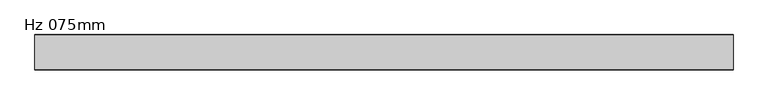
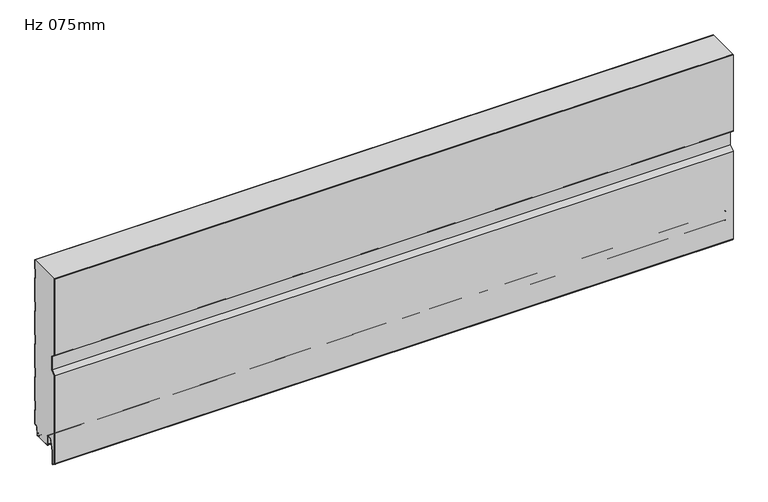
"""IFC4 building model written with IfcOpenShell, lengths in millimetres: plate geometry, KIP-MEX-KW-R19-CP-Hz-KW3_SL : Hz 075mm."""

from ifc_helpers import new_model, si_unit, point, frame, frame_2d, origin, place, context, project, spatial, polyline, circle_curve, trimmed, segment, composite_curve, outline, extrude, source, transform, mapped, element, save


def hz_075mm_f9465556(model_context):
    return source(origin(), model_context, "Body", "SweptSolid", [
        extrude(outline(composite_curve([segment(polyline([(-14.168539, 7.9539868), (-13.6621069, 2.1654409)]), True, "CONTINUOUS"), segment(trimmed(circle_curve(frame_2d((-11.1716202, 2.3833303)), 2.5), [point((-13.6621069, 2.1654409))], [point((-11.9264293, 0.0))], True, "CARTESIAN"), True, "CONTINUOUS"), segment(polyline([(-11.9264293, 0.0), (-43.737817, 0.0)]), True, "CONTINUOUS"), segment(trimmed(circle_curve(frame_2d((-43.737817, 2.4986532)), 2.4986532), [point((-43.737817, 0.0))], [point((-41.2391638, 2.4986532))], True, "CARTESIAN"), True, "CONTINUOUS"), segment(polyline([(-41.2391638, 2.4986532), (-41.2391638, 6.9975309), (-42.2393619, 6.9975309), (-42.2393619, 2.4989009)]), True, "CONTINUOUS"), segment(trimmed(circle_curve(frame_2d((-43.737718, 2.4989009)), 1.4983561), [point((-42.2393619, 2.4989009))], [point((-43.737718, 1.0005448))], False, "CARTESIAN"), True, "CONTINUOUS"), segment(polyline([(-43.737718, 1.0005448), (-45.2871287, 1.0005448)]), True, "CONTINUOUS"), segment(trimmed(circle_curve(frame_2d((-45.2871287, 2.4946541)), 1.4941093), [point((-45.2871287, 1.0005448))], [point((-46.781238, 2.4946541))], False, "CARTESIAN"), True, "CONTINUOUS"), segment(polyline([(-46.781238, 2.4946541), (-46.781238, 21.0181667)]), True, "CONTINUOUS"), segment(trimmed(circle_curve(frame_2d((-49.8021238, 21.0181667)), 3.0208858), [point((-46.781238, 21.0181667))], [point((-49.8021238, 24.0390526))], True, "CARTESIAN"), True, "CONTINUOUS"), segment(polyline([(-49.8021238, 24.0390526), (-57.2693804, 24.0390526)]), True, "CONTINUOUS"), segment(trimmed(circle_curve(frame_2d((-57.2693804, 21.0499553)), 2.9890972), [point((-57.2693804, 24.0390526))], [point((-60.1423641, 21.8749809))], True, "CARTESIAN"), True, "CONTINUOUS"), segment(polyline([(-60.1423641, 21.8749809), (-67.2405983, -2.8431766), (-67.2405983, -31.2013392), (-73.9952121, -25.9234803), (-73.9952121, 177.1070348), (-63.9944609, 185.1076357), (-63.9944609, 216.0688854), (-73.9944609, 224.0688854), (-73.9944609, 400.0520896), (-0.9944609, 400.0520896), (-0.9944609, 379.6094183), (-2.1939601, 378.522894), (-2.1939601, 358.5909157), (-0.9944609, 357.5058172), (-0.9944609, 303.4565335), (-2.1939601, 302.3700093), (-2.1939601, 282.4380309), (-0.9944609, 281.3529324), (-0.9944609, 227.3036488), (-2.1939601, 226.2171245), (-2.1939601, 206.2851462), (-0.9944609, 205.2000477), (-0.9944609, 151.150764), (-2.1939601, 150.0642397), (-2.1939601, 130.1322614), (-0.9944609, 129.0471629), (-0.9944609, 74.9978793), (-2.1939601, 73.911355), (-2.1939601, 53.9793766), (-0.9952121, 52.8942781), (-0.9952121, 21.2882606), (-4.4952121, 21.2882606)]), True, "CONTINUOUS"), segment(trimmed(circle_curve(frame_2d((-4.4952121, 18.2882606)), 3.0), [point((-4.4952121, 21.2882606))], [point((-7.4839175, 18.5483373))], True, "CARTESIAN"), True, "CONTINUOUS"), segment(polyline([(-7.4839175, 18.5483373), (-8.9019103, 2.2532919)]), True, "CONTINUOUS"), segment(trimmed(circle_curve(frame_2d((-10.396263, 2.3833303)), 1.4999999), [point((-8.9019103, 2.2532919))], [point((-9.8221897, 0.997531))], False, "CARTESIAN"), True, "CONTINUOUS"), segment(polyline([(-9.8221897, 0.997531), (-11.7456936, 0.997531)]), True, "CONTINUOUS"), segment(trimmed(circle_curve(frame_2d((-11.1716202, 2.3833303)), 1.5), [point((-11.7456936, 0.997531))], [point((-12.6659122, 2.2525966))], False, "CARTESIAN"), True, "CONTINUOUS"), segment(polyline([(-12.6659122, 2.2525966), (-13.1723443, 8.0411425), (-14.168539, 7.9539868)]), True, "CONTINUOUS")], self_intersect=False)), frame((-740.0, 0.0, 0.0), z_axis=(1.0, 0.0, 0.0), x_axis=(0.0, 1.0, 0.0)), (0.0, 0.0, 1.0), 1480.0),
        extrude(outline(composite_curve([segment(polyline([(-1.1923863, 378.0794496), (-1.1923863, 359.0343601), (0.0055391, 357.9478358), (0.0055391, 303.0116636), (-1.1923863, 301.9265649), (-1.1923863, 282.8814753), (0.0055391, 281.794951), (0.0055391, 226.8587788), (-1.1923863, 225.7736801), (-1.1923863, 206.7285905), (0.0055391, 205.6420663), (0.0055391, 150.7058941), (-1.1923863, 149.6207954), (-1.1923863, 130.5757058), (0.0071129, 129.4891815), (0.0071129, 74.5544349), (-1.1923863, 73.4679106), (-1.1923863, 54.422821), (0.0, 53.3377223), (0.0, 21.7710722)]), True, "CONTINUOUS"), segment(trimmed(circle_curve(frame_2d((-1.4908763, 21.7710722)), 1.4908762), [point((0.0, 21.7710722))], [point((-1.4908763, 20.280196))], False, "CARTESIAN"), True, "CONTINUOUS"), segment(polyline([(-1.4908763, 20.280196), (-4.495104, 20.280196)]), True, "CONTINUOUS"), segment(trimmed(circle_curve(frame_2d((-4.495104, 18.2846098)), 1.9955862), [point((-4.495104, 20.280196))], [point((-6.4831424, 18.4580093))], True, "CARTESIAN"), True, "CONTINUOUS"), segment(polyline([(-6.4831424, 18.4580093), (-7.9041448, 2.1661016)]), True, "CONTINUOUS"), segment(trimmed(circle_curve(frame_2d((-10.3946892, 2.3833303)), 2.4999999), [point((-7.9041448, 2.1661016))], [point((-9.647721, -0.002469))], False, "CARTESIAN"), True, "CONTINUOUS"), segment(polyline([(-9.647721, -0.002469), (-11.9170147, -0.002469)]), True, "CONTINUOUS"), segment(trimmed(circle_curve(frame_2d((-11.1700464, 2.3833303)), 2.5), [point((-11.9170147, -0.002469))], [point((-13.6605331, 2.1654409))], False, "CARTESIAN"), True, "CONTINUOUS"), segment(polyline([(-13.6605331, 2.1654409), (-14.1669652, 7.9539868), (-13.1707705, 8.0411425), (-12.6643384, 2.2525966)]), True, "CONTINUOUS"), segment(trimmed(circle_curve(frame_2d((-11.1700464, 2.3833303)), 1.5), [point((-12.6643384, 2.2525966))], [point((-11.7441198, 0.997531))], True, "CARTESIAN"), True, "CONTINUOUS"), segment(polyline([(-11.7441198, 0.997531), (-9.8206159, 0.997531)]), True, "CONTINUOUS"), segment(trimmed(circle_curve(frame_2d((-10.3946892, 2.3833303)), 1.4999999), [point((-9.8206159, 0.997531))], [point((-8.9003365, 2.2532919))], True, "CARTESIAN"), True, "CONTINUOUS"), segment(polyline([(-8.9003365, 2.2532919), (-7.4823437, 18.5483373)]), True, "CONTINUOUS"), segment(trimmed(circle_curve(frame_2d((-4.4936383, 18.2882606)), 3.0), [point((-7.4823437, 18.5483373))], [point((-4.4936383, 21.2882606))], False, "CARTESIAN"), True, "CONTINUOUS"), segment(polyline([(-4.4936383, 21.2882606), (-0.9936383, 21.2882606), (-0.9936383, 52.8942781), (-2.1923863, 53.9793766), (-2.1923863, 73.911355), (-0.9928871, 74.9978793), (-0.9928871, 129.0457371), (-2.1923863, 130.1322614), (-2.1923863, 150.0642397), (-0.9928871, 151.150764), (-0.9928871, 205.1986219), (-2.1923863, 206.2851462), (-2.1923863, 226.2171245), (-0.9928871, 227.3036488), (-0.9928871, 281.3515066), (-2.1923863, 282.4380309), (-2.1923863, 302.3700093), (-0.9928871, 303.4565335), (-0.9928871, 357.5043914), (-2.1923863, 358.5909157), (-2.1923863, 378.522894), (-0.9928871, 379.6094183), (-0.9928871, 400.0520896), (0.0055391, 400.0520896), (0.0055391, 379.1645483), (-1.1923863, 378.0794496)]), True, "CONTINUOUS")], self_intersect=False)), frame((-740.0, 0.0, 0.0), z_axis=(1.0, 0.0, 0.0), x_axis=(0.0, 1.0, 0.0)), (0.0, 0.0, 1.0), 1480.0),
        extrude(outline(composite_curve([segment(polyline([(-74.9944609, 177.5882606), (-64.9944609, 185.5882606), (-64.9944609, 215.5882606), (-74.9944609, 223.5882606), (-74.9944609, 400.0520896), (-73.9944609, 400.0520896), (-73.9944609, 224.0688854), (-63.9944609, 216.0688854), (-63.9944609, 185.1076357), (-73.9944609, 177.1076357), (-73.9944609, -25.9234803), (-67.2398472, -31.2013392), (-67.2398472, -2.8431766), (-60.1416127, 21.8749809)]), True, "CONTINUOUS"), segment(trimmed(circle_curve(frame_2d((-57.2686293, 21.0499554)), 2.9890973), [point((-60.1416127, 21.8749809))], [point((-57.2686293, 24.0390526))], False, "CARTESIAN"), True, "CONTINUOUS"), segment(polyline([(-57.2686293, 24.0390526), (-49.8013726, 24.0390526)]), True, "CONTINUOUS"), segment(trimmed(circle_curve(frame_2d((-49.8013726, 21.0181668)), 3.0208858), [point((-49.8013726, 24.0390526))], [point((-46.7804868, 21.0181668))], False, "CARTESIAN"), True, "CONTINUOUS"), segment(polyline([(-46.7804868, 21.0181668), (-46.7804868, 2.4946541)]), True, "CONTINUOUS"), segment(trimmed(circle_curve(frame_2d((-45.2863776, 2.4946541)), 1.4941093), [point((-46.7804868, 2.4946541))], [point((-45.2863776, 1.0005448))], True, "CARTESIAN"), True, "CONTINUOUS"), segment(polyline([(-45.2863776, 1.0005448), (-43.7369668, 1.0005448)]), True, "CONTINUOUS"), segment(trimmed(circle_curve(frame_2d((-43.7369668, 2.4989009)), 1.4983561), [point((-43.7369668, 1.0005448))], [point((-42.2386107, 2.4989009))], True, "CARTESIAN"), True, "CONTINUOUS"), segment(polyline([(-42.2386107, 2.4989009), (-42.2386107, 6.9975309), (-41.2384126, 6.9975309), (-41.2384126, 2.4986532)]), True, "CONTINUOUS"), segment(trimmed(circle_curve(frame_2d((-43.7370659, 2.4986532)), 2.4986532), [point((-41.2384126, 2.4986532))], [point((-43.7370659, 0.0))], False, "CARTESIAN"), True, "CONTINUOUS"), segment(polyline([(-43.7370659, 0.0), (-45.3087755, 0.0)]), True, "CONTINUOUS"), segment(trimmed(circle_curve(frame_2d((-45.2873377, 2.4950818)), 2.4951739), [point((-45.3087755, 0.0))], [point((-47.7825116, 2.4950818))], False, "CARTESIAN"), True, "CONTINUOUS"), segment(polyline([(-47.7825116, 2.4950818), (-47.7825116, 21.0262634)]), True, "CONTINUOUS"), segment(trimmed(circle_curve(frame_2d((-49.799282, 21.0262634)), 2.0167704), [point((-47.7825116, 21.0262634))], [point((-49.799282, 23.0430338))], True, "CARTESIAN"), True, "CONTINUOUS"), segment(polyline([(-49.799282, 23.0430338), (-57.2679288, 23.0430338)]), True, "CONTINUOUS"), segment(trimmed(circle_curve(frame_2d((-57.2679288, 21.0517509)), 1.9912829), [point((-57.2679288, 23.0430338))], [point((-59.1819009, 21.6012219))], True, "CARTESIAN"), True, "CONTINUOUS"), segment(polyline([(-59.1819009, 21.6012219), (-66.2398454, -2.9837112), (-66.2398454, -31.1745677)]), True, "CONTINUOUS"), segment(trimmed(circle_curve(frame_2d((-67.239487, -31.2013392)), 1.0), [point((-66.2398454, -31.1745677))], [point((-67.8551698, -31.9893333))], False, "CARTESIAN"), True, "CONTINUOUS"), segment(polyline([(-67.8551698, -31.9893333), (-74.033668, -27.1618918)]), True, "CONTINUOUS"), segment(trimmed(circle_curve(frame_2d((-72.4944609, -25.1919066)), 2.5), [point((-74.033668, -27.1618918))], [point((-74.9944609, -25.1919066))], False, "CARTESIAN"), True, "CONTINUOUS"), segment(polyline([(-74.9944609, -25.1919066), (-74.9944609, 177.5882606)]), True, "CONTINUOUS")], self_intersect=False)), frame((-740.0, 0.0, 0.0), z_axis=(1.0, 0.0, 0.0), x_axis=(0.0, 1.0, 0.0)), (0.0, 0.0, 1.0), 1480.0),
    ])


if __name__ == "__main__":
    model = new_model("IFC4")
    model_context = context("Model", 3, world=origin())
    ifc_project = project(units=[si_unit("LENGTHUNIT", "METRE", prefix="MILLI")], contexts=[model_context])
    site = spatial("IfcSite", under=ifc_project)
    building = spatial("IfcBuilding", under=site)
    placement = place(None, origin())
    hz_075mm_shape = hz_075mm_f9465556(model_context)
    element("IfcPlate", 1, ObjectType="KIP-MEX-KW-R19-CP-Hz-KW3_SL : Hz 075mm", at=placement, inside=building, context=model_context, shape_type="MappedRepresentation", body=[
        mapped(hz_075mm_shape, transform((0.0, 0.0, 0.0), x_axis=(1.0, 0.0, 0.0), y_axis=(0.0, 1.0, 0.0), z_axis=(0.0, 0.0, 1.0))),
    ])
    save(model, "model.ifc")
